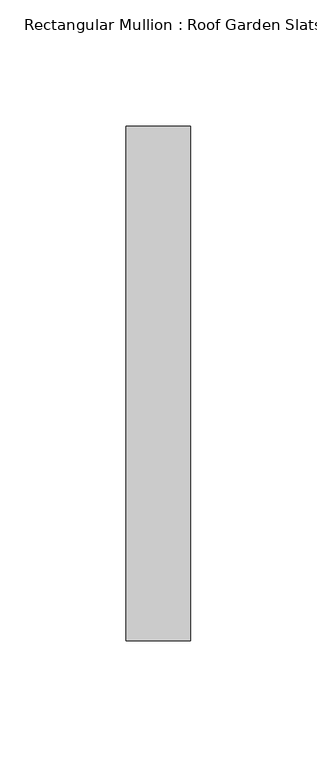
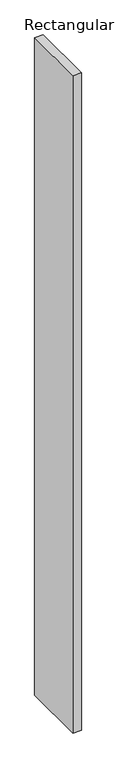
"""IFC4 building model written with IfcOpenShell, lengths in millimetres: member geometry, Rectangular Mullion : Roof Garden Slats."""

from ifc_helpers import new_model, si_unit, frame, origin, place, context, project, spatial, polyline, outline, extrude, source, transform, mapped, element, save


def rectangular_mullion_roof_garden_slats_edc53e30(model_context):
    return source(origin(), model_context, "Body", "SweptSolid", [
        extrude(outline(polyline([(12.7, 139.7), (12.7, -63.5), (-12.7, -63.5), (-12.7, 139.7), (12.7, 139.7)])), frame((0.0, 0.0, -2127.7128661), z_axis=(0.0, 0.0, 1.0), x_axis=(1.0, 0.0, 0.0)), (0.0, 0.0, 1.0), 2127.7128661),
    ])


if __name__ == "__main__":
    model = new_model("IFC4")
    model_context = context("Model", 3, world=origin())
    ifc_project = project(units=[si_unit("LENGTHUNIT", "METRE", prefix="MILLI")], contexts=[model_context])
    site = spatial("IfcSite", under=ifc_project)
    building = spatial("IfcBuilding", under=site)
    placement = place(None, origin())
    rectangular_mullion_roof_garden_slats_shape = rectangular_mullion_roof_garden_slats_edc53e30(model_context)
    element("IfcMember", 1, ObjectType="Rectangular Mullion : Roof Garden Slats", at=placement, inside=building, context=model_context, shape_type="MappedRepresentation", body=[
        mapped(rectangular_mullion_roof_garden_slats_shape, transform((0.0, 0.0, 0.0), x_axis=(1.0, 0.0, 0.0), y_axis=(0.0, 1.0, 0.0), z_axis=(0.0, 0.0, 1.0))),
    ])
    save(model, "model.ifc")
